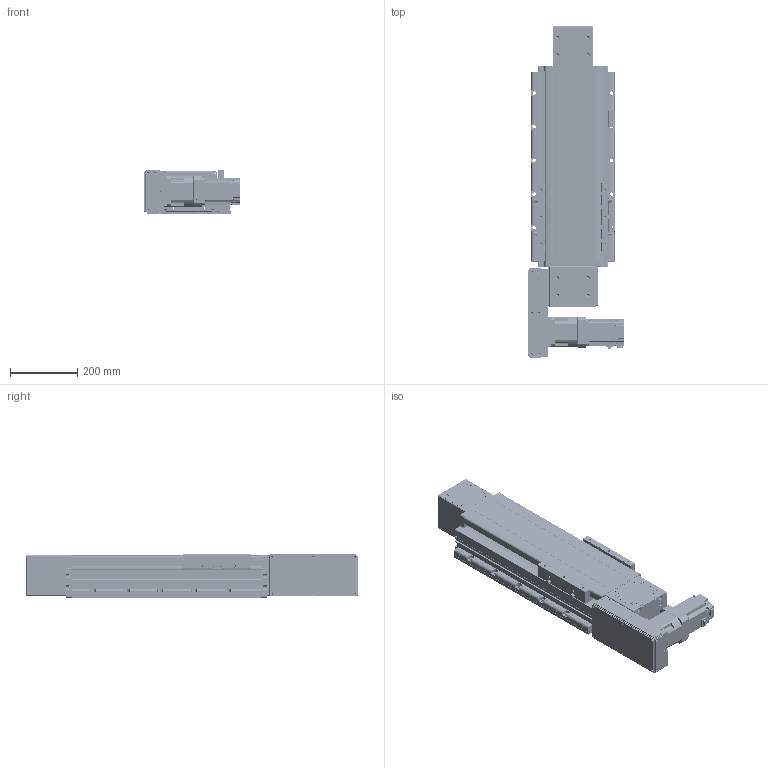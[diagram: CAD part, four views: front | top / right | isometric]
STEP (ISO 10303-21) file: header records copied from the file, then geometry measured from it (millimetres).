
FILE_DESCRIPTION(/* description */ (''),/* implementation_level */ '2;1');
FILE_NAME(/* name */ '\\192.168.0.160\disk1\HAN SHIN Master\B-설계부문\C-표준\B-2024년\BC02-표준도면\+로봇 개선표준도면\홈페이지 표준 도면\홈페이지 최종 작업 폴더\3D\HSB\HSB210\HSB210-L7G-N-0300-R.stp',/* time_stamp */ '2025-01-04T10:42:10+09:00',/* author */ ('user'),/* organization */ (''),/* preprocessor_version */ 'ST-DEVELOPER v18.1',/* originating_system */ 'Autodesk Inventor 2022',/* authorisation */ '');
FILE_SCHEMA (('AUTOMOTIVE_DESIGN { 1 0 10303 214 3 1 1 }'));
Products named in the file (37): HSB210-L7G-N-0500-R; HSB210 BASE - 2000ST; HSB210 FORNT HOUSUNG-Connecting Shaft; HSB160 SHAFT-1; HSB160 BEARING OVER; HSB210 FRONT COVER; REAR HOUSUNG-1-R1; HSB160 ARC COVER; HSB160 REAR SHAFT-2; REAR SHAFT--2; 6004ZZ; 6004ZZ Outer ring; 6004ZZ Shield1; 6004ZZ Inner ring; 6004ZZ Ball; 6004ZZ Shield2; UPCOVER; SIDE COVER; PGX90-H-1_3; HR200 SENSOR DOG; hsr_ftht_A-M6F_grease_nipple_joint; NIPPLE CAP(신규); SENSOR BRK(EE-SX674A); EE_SX674A; 6308ZZ; TENSION PLATE; HSB210 END COVER-1; HG90STOPPER - 27L; HSB210 TABLE (TEST); hg-kr73_; HSB210 L MOTOR PLATE ASSY; HG200 750W LR MOTOR PLATE-사출; 750W MOTOR PLATE; HR180,200-ACRYL COVER 2; HR180,200-ACRYL COVER; HG200-R L-BELT COVER; HR180,200-ACRYL COVER 3
Assembly tree (70 placements, depth 3):
  HSB210-L7G-N-0500-R
    HSB210 BASE - 2000ST
    HSB210 FRONT COVER  x2
    HSB210 FORNT HOUSUNG-Connecting Shaft
    HSB160 SHAFT-1
    HSB160 BEARING OVER
    HSB160 ARC COVER  x4
    REAR HOUSUNG-1-R1
    HSB160 REAR SHAFT-2
    REAR SHAFT--2
    6004ZZ  x2
      6004ZZ Outer ring
      6004ZZ Shield1
      6004ZZ Inner ring
      6004ZZ Ball
      6004ZZ Shield2
    TENSION PLATE  x2
    UPCOVER
    SIDE COVER  x2
    PGX90-H-1_3
    HG90STOPPER - 27L  x4
    HR200 SENSOR DOG
    SENSOR BRK(EE-SX674A)  x3
    EE_SX674A  x3
    NIPPLE CAP(신규)  x4
    hsr_ftht_A-M6F_grease_nipple_joint  x4
    6308ZZ  x2
    HSB210 END COVER-1
    HSB210 TABLE (TEST)
    hg-kr73_
    HSB210 L MOTOR PLATE ASSY
      HG200 750W LR MOTOR PLATE-사출
      750W MOTOR PLATE
      HR180,200-ACRYL COVER 2
      HR180,200-ACRYL COVER 3  x2
      HR180,200-ACRYL COVER
      HG200-R L-BELT COVER
Bounding box: 284.5 x 985.5 x 131.5 mm (x, y, z)
Volume: 10193580.6 mm3; surface area: 2357857.5 mm2
Topology: 131 solids, 133 shells, 7897 faces, 21933 edges, 14489 vertices
Faces by surface type: plane 5966, cylinder 1379, cone 384, sphere 84, torus 59, bspline 25
Full cylindrical faces by diameter (mm): 2.013 x2, 2.459 x48, 3 x8, 3.2 x4, 3.242 x54, 3.4 x20, 3.5 x6, 4.134 x2, 4.2 x16, 4.5 x36, 4.917 x36, 5 x56, 5.1 x1, 5.5 x13, 5.6 x4, 5.9 x4, 6 x15, 6.5 x9, 6.6 x8, 6.647 x40, 6.8 x9, 7 x20, 7.6 x4, 8 x13, 8.433 x2, 9 x46, 9.5 x7, 10 x5, 10.106 x10, 11 x20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
Entity records: 171250 total; most frequent: CARTESIAN_POINT 33424, ORIENTED_EDGE 28560, DIRECTION 27306, EDGE_CURVE 14280, LINE 11170, VECTOR 11170, VERTEX_POINT 9520, AXIS2_PLACEMENT_3D 8068
